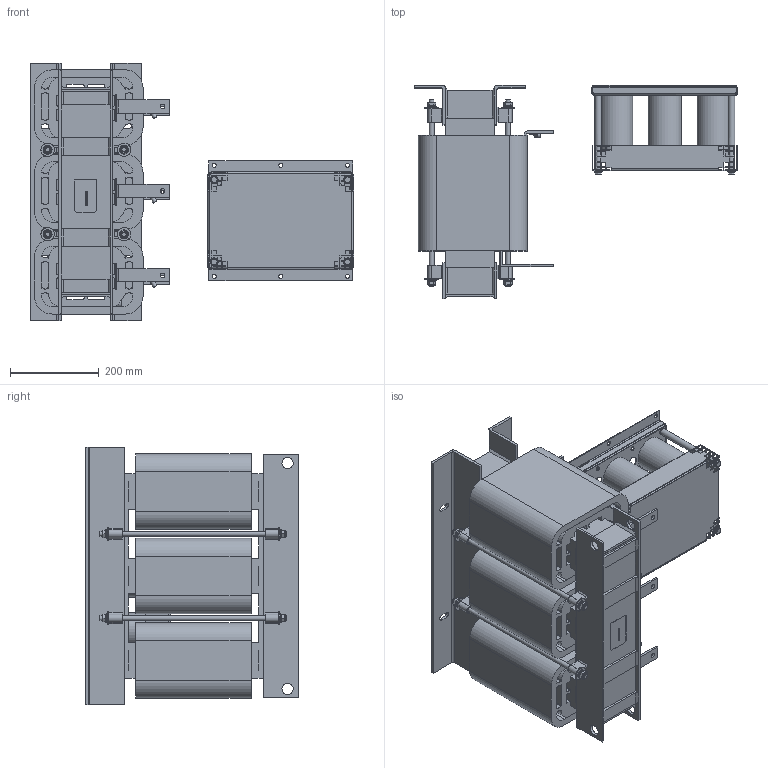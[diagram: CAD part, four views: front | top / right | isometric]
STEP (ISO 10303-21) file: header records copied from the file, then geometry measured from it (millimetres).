
FILE_DESCRIPTION(/* description */ ('raw material description'),/* implementation_level */ '2;1');
FILE_NAME(/* name */ 'C:\Users\Oliver.Volic\Desktop\FN5040HV-260-99.stp',/* time_stamp */ '2020-02-17T12:46:28+01:00',/* author */ ('Oliver.Volic'),/* organization */ ('Schaffner EMV AG'),/* preprocessor_version */ 'ST-DEVELOPER v16.5',/* originating_system */ 'Autodesk Inventor 2017',/* authorisation */ '');
FILE_SCHEMA (('CONFIG_CONTROL_DESIGN'));
Products named in the file (1): FN5040HV-260-99
Bounding box: 728 x 480 x 580 mm (x, y, z)
Volume: 40616978.6 mm3; surface area: 4131387.2 mm2
Topology: 3 solids, 3 shells, 3482 faces, 9925 edges, 6352 vertices
Faces by surface type: plane 2272, cylinder 710, bspline 278, cone 142, torus 80
Full cylindrical faces by diameter (mm): 7.1 x22, 8 x26, 8.3 x11, 8.7 x3, 9 x17, 9.5 x22, 10 x18, 10.3 x12, 10.5 x8, 11 x4, 12 x6, 12.611 x8, 15 x4, 18 x4, 20 x9, 25 x13, 30 x8, 75 x6
Entity records: 120234 total; most frequent: CARTESIAN_POINT 28974, ORIENTED_EDGE 19078, DIRECTION 16536, EDGE_CURVE 9539, LINE 6592, VECTOR 6592, VERTEX_POINT 6261, AXIS2_PLACEMENT_3D 4972
